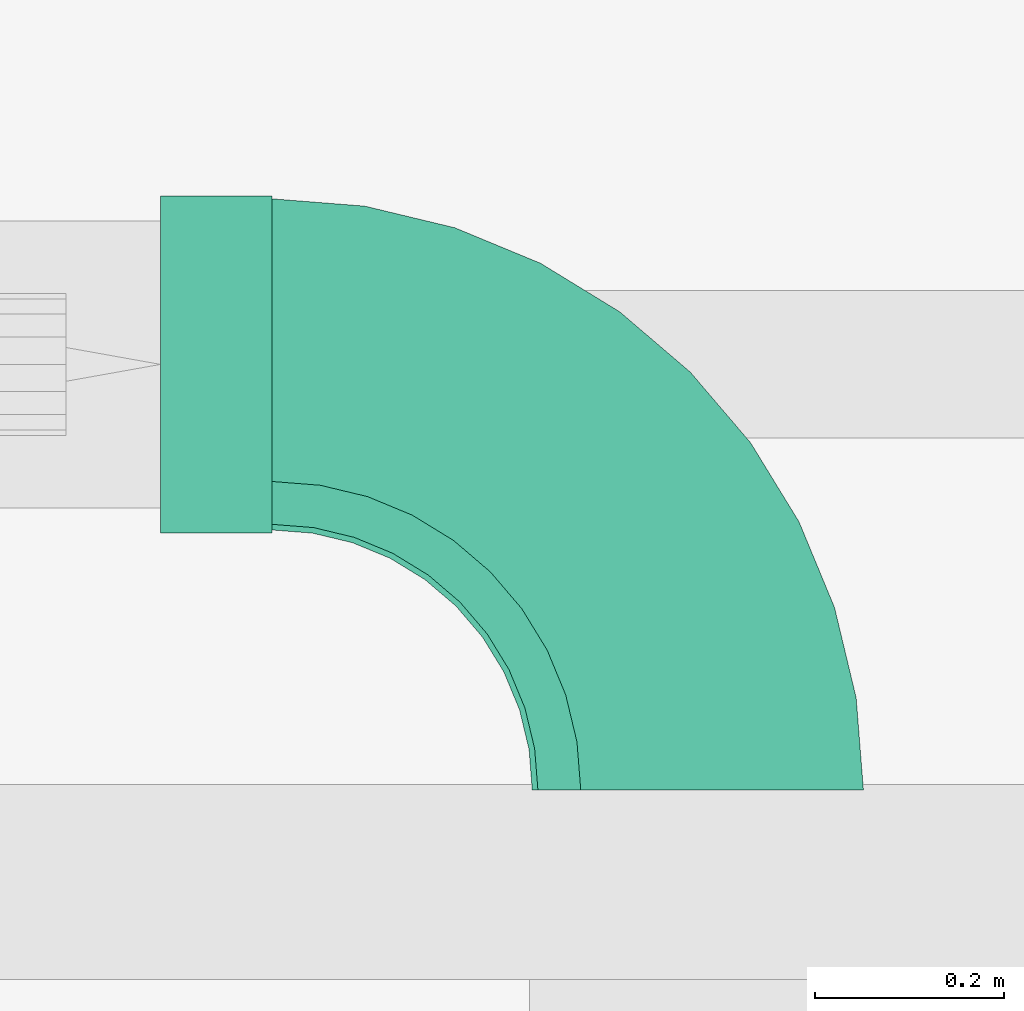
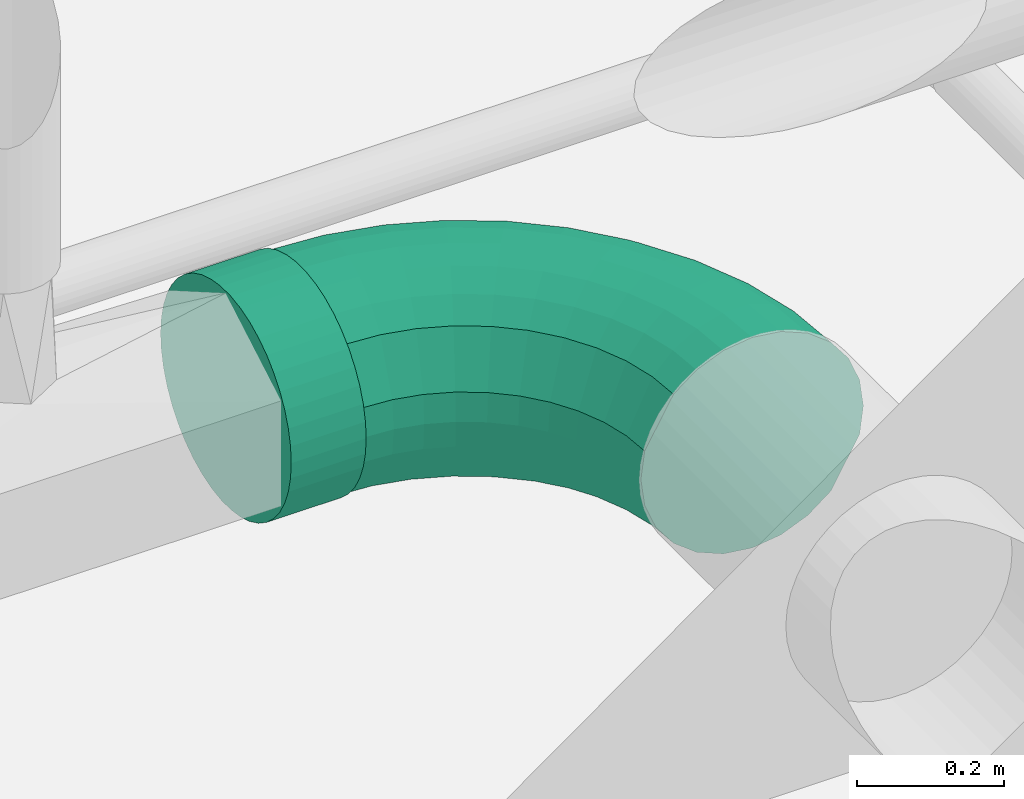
# One storey, part 17 of 28: 1 flow fitting, 1 flow segment.
"""IFC2X3 building model written with IfcOpenShell, lengths in millimetres."""

from ifc_helpers import new_model, entity, si_unit, converted_unit, direction, frame, frame_2d, origin, place, context, subcontext, project, spatial, circle, extrude, faceted_brep, source, transform, mapped, material, type_object, type_shapes, element, save


model = new_model("IFC2X3")

# Units and contexts
model_context = context("Model", 3, precision=0.01, world=origin(), true_north=direction((6.123031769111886e-17, 1.0)))
body_context = subcontext(model_context, "Body", "Model", "MODEL_VIEW")
ifc_project = project(units=[si_unit("LENGTHUNIT", "METRE", prefix="MILLI"), converted_unit("PLANEANGLEUNIT", "DEGREE", entity("IfcPlaneAngleMeasure", 0.017453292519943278), si_unit("PLANEANGLEUNIT", "RADIAN"), dimensions=[0, 0, 0, 0, 0, 0, 0]), si_unit("AREAUNIT", "SQUARE_METRE")], contexts=[model_context])

# Site, building, storey
site_placement = place(None, frame((7776.576483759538, 118.3519876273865, 0.0)))
site = spatial("IfcSite", under=ifc_project, at=site_placement, Name="Default", CompositionType="ELEMENT")
building_placement = place(site_placement, origin())
building = spatial("IfcBuilding", under=site, at=building_placement, Name="Bygning (endres i Project Information)", CompositionType="ELEMENT")
storey_placement = place(building_placement, frame((0.0, 0.0, 14000.0)))
storey = spatial("IfcBuildingStorey", under=building, at=storey_placement, Name="Plan U1 - Arbeid", CompositionType="ELEMENT", Elevation=14000.000000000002)

# Flow segment
ifc_material = material(Name="SS 2343 Rustfritt stål, prosessrør, generisk")
pipe_segment_type = type_object("IfcPipeSegmentType", Name="Pipe Types:AISI 304L Rustfritt", PredefinedType="NOTDEFINED", material=ifc_material)
flow_segment_placement = place(storey_placement, origin())
element("IfcFlowSegment", 1, at=flow_segment_placement, inside=storey, type_object=pipe_segment_type, Name="Pipe Types:AISI 304L Rustfritt", ObjectType="Pipe Types:AISI 304L Rustfritt", context=body_context, shape_type="SweptSolid", body=[
    extrude(circle(Radius=178.0, at=frame_2d((1.9352732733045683e-34, 2.1657342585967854e-12), x_axis=(1.0, 0.0))), frame((15956.145510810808, 30347.75730578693, 278.0000095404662), z_axis=(1.0, 0.0, 0.0), x_axis=(0.0, 1.0, 0.0)), (0.0, 0.0, 1.0), 117.85586405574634),
])

# Flow fitting
pipe_fitting_type = type_object("IfcPipeFittingType", Name="VA_prosess_rustfritt_bend_D+100:VA_prosess_rustfritt_bend_D+100", PredefinedType="NOTDEFINED", material=ifc_material)
shared_shape = source(origin(), body_context, "Body", "Brep", [
    faceted_brep([(-352.2284593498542, -167.30521287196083, 0.0), (-353.16127499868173, -161.4156466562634, 45.29333289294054), (-450.0, -169.03701960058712, 45.29333289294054), (-450.0, -175.0, 0.0), (-355.89615210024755, -144.14831221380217, 87.4999999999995), (-450.0, -151.5544456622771, 87.4999999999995), (-360.2467132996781, -116.67994985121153, 123.74368670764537), (-450.0, -123.74368670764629, 123.74368670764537), (-365.91647504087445, -80.88248306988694, 151.5544456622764), (-450.0, -87.50000000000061, 151.5544456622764), (-372.5190524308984, -39.19545007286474, 169.03701960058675), (-450.0, -45.29333289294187, 169.03701960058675), (-379.6044907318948, 5.540246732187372, 175.0), (-450.0, 0.0, 175.0), (-386.6899290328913, 50.27594353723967, 169.03701960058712), (-450.0, 45.293332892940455, 169.03701960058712), (-393.29250642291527, 91.96297653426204, 151.55444566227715), (-450.0, 87.49999999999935, 151.55444566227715), (-398.9622681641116, 127.76044331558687, 123.7436867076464), (-450.0, 123.74368670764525, 123.7436867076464), (-406.04770646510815, 172.49614012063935, 45.29333289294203), (-450.0, 169.03701960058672, 45.29333289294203), (-406.98052211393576, 178.3857063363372, 0.0), (-450.0, 175.0, 0.0), (-406.0477064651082, 172.4961401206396, -45.29333289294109), (-450.0, 169.03701960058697, -45.29333289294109), (-403.31282936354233, 155.22880567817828, -87.49999999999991), (-450.0, 151.55444566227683, -87.49999999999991), (-398.9622681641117, 127.76044331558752, -123.74368670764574), (-450.0, 123.7436867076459, -123.74368670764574), (-393.2925064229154, 91.96297653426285, -151.5544456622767), (-450.0, 87.50000000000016, -151.5544456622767), (-386.6899290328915, 50.27594353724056, -169.0370196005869), (-450.0, 45.29333289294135, -169.0370196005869), (-379.604490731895, 5.540246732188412, -175.0), (-450.0, 0.0, -175.0), (-372.5190524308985, -39.195450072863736, -169.03701960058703), (-450.0, -45.29333289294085, -169.03701960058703), (-365.9164750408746, -80.88248306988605, -151.55444566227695), (-450.0, -87.4999999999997, -151.55444566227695), (-360.2467132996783, -116.6799498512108, -123.74368670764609), (-450.0, -123.74368670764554, -123.74368670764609), (-353.16127499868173, -161.41564665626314, -45.29333289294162), (-450.0, -169.03701960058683, -45.29333289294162), (-256.86437851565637, -144.41032268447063, 0.0), (-258.70704079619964, -138.7391913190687, 45.29333289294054), (-264.109453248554, -122.11227545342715, 87.4999999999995), (-272.7034503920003, -95.66267192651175, 123.74368670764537), (-283.9033655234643, -61.19287750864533, 151.5544456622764), (-296.9459429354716, -21.051951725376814, 169.03701960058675), (-310.94235253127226, 22.024567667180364, 175.0), (-324.93876212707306, 65.10108705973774, 169.03701960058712), (-337.9813395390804, 105.24201284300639, 151.55444566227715), (-349.18125467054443, 139.71180726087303, 123.7436867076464), (-363.1776642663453, 182.78832665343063, 45.29333289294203), (-365.0203265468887, 188.4594580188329, 0.0), (-363.17766426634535, 182.78832665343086, -45.29333289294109), (-357.77525181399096, 166.1614107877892, -87.49999999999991), (-349.18125467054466, 139.71180726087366, -123.74368670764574), (-337.9813395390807, 105.24201284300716, -151.5544456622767), (-324.93876212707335, 65.10108705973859, -169.0370196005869), (-310.9423525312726, 22.024567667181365, -175.0), (-296.94594293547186, -21.051951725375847, -169.03701960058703), (-283.9033655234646, -61.192877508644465, -151.55444566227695), (-272.70345039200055, -95.66267192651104, -123.74368670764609), (-258.70704079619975, -138.73919131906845, -45.29333289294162), (-166.25593766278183, -106.87907761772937, 0.0), (-168.9630741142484, -101.56602317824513, 45.29333289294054), (-176.8999965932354, -85.9889357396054, 87.4999999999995), (-189.52581694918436, -61.20936806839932, 123.74368670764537), (-205.9801063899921, -28.916006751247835, 151.5544456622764), (-225.14153228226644, 8.690409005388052, 169.03701960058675), (-245.7042751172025, 49.047064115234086, 175.0), (-266.2670179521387, 89.40371922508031, 169.03701960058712), (-285.4284438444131, 127.0101349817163, 151.55444566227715), (-301.88273328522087, 159.30349629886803, 123.7436867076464), (-322.44547612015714, 199.6601514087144, 45.29333289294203), (-325.15261257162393, 204.973205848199, 0.0), (-322.44547612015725, 199.66015140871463, -45.29333289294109), (-314.50855364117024, 184.0830639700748, -87.49999999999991), (-301.88273328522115, 159.30349629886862, -123.74368670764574), (-285.4284438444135, 127.01013498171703, -151.5544456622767), (-266.2670179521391, 89.4037192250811, -169.0370196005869), (-245.70427511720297, 49.047064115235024, -175.0), (-225.1415322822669, 8.690409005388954, -169.03701960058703), (-205.9801063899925, -28.916006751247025, -151.55444566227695), (-189.5258169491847, -61.20936806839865, -123.74368670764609), (-168.96307411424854, -101.56602317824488, -45.29333289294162), (-82.6342173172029, -55.63562148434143, 0.0), (-86.13916925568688, -50.811469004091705, 45.29333289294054), (-96.4151683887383, -36.667769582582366, 87.4999999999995), (-112.76192235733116, -14.168392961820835, 123.74368670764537), (-134.06542689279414, 15.15336552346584, 151.5544456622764), (-158.87388336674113, 49.299276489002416, 169.03701960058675), (-185.49663646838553, 85.94235253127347, 175.0), (-212.11938957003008, 122.58542857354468, 169.03701960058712), (-236.9278460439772, 156.73133953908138, 151.55444566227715), (-258.2313505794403, 186.05309802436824, 123.7436867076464), (-284.85410368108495, 222.69617406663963, 45.29333289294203), (-288.3590556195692, 227.5203265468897, 0.0), (-284.8541036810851, 222.69617406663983, -45.29333289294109), (-274.5781045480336, 208.55247464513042, -87.49999999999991), (-258.23135057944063, 186.05309802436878, -123.74368670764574), (-236.9278460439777, 156.731339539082, -151.5544456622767), (-212.11938957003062, 122.58542857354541, -169.0370196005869), (-185.49663646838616, 85.94235253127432, -175.0), (-158.87388336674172, 49.29927648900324, -169.03701960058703), (-134.06542689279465, 15.15336552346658, -151.55444566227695), (-112.7619223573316, -14.168392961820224, -123.74368670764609), (-86.13916925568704, -50.81146900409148, -45.29333289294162), (-8.058261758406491, 8.058261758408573, 0.0), (-12.274725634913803, 12.274725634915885, 45.29333289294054), (-24.63677221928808, 24.636772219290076, 87.4999999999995), (-44.30194846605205, 44.30194846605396, 123.74368670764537), (-69.93010511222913, 69.93010511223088, 151.5544456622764), (-99.77472563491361, 99.77472563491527, 169.03701960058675), (-131.801948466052, 131.80194846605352, 175.0), (-163.82917129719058, 163.82917129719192, 169.03701960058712), (-193.6737918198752, 193.67379181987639, 151.55444566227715), (-219.3019484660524, 219.3019484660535, 123.7436867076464), (-251.3291712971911, 251.32917129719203, 45.29333289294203), (-255.54563517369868, 255.54563517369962, 0.0), (-251.32917129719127, 251.32917129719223, -45.29333289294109), (-238.9671247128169, 238.96712471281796, -87.49999999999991), (-219.30194846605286, 219.30194846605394, -123.74368670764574), (-193.67379181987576, 193.67379181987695, -151.5544456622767), (-163.8291712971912, 163.82917129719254, -169.0370196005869), (-131.80194846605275, 131.80194846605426, -175.0), (-99.77472563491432, 99.774725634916, -169.03701960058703), (-69.93010511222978, 69.93010511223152, -151.55444566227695), (-44.30194846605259, 44.3019484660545, -123.74368670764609), (-12.274725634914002, 12.274725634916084, -45.29333289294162), (55.63562148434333, 82.63421731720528, 0.0), (50.81146900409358, 86.13916925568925, 45.29333289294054), (36.667769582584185, 96.41516838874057, 87.4999999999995), (14.168392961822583, 112.76192235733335, 123.74368670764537), (-15.153365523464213, 134.06542689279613, 151.5544456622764), (-49.29927648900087, 158.873883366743, 169.03701960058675), (-85.94235253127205, 185.49663646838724, 175.0), (-122.5854285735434, 212.11938957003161, 169.03701960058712), (-156.73133953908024, 236.92784604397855, 151.55444566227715), (-186.05309802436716, 258.23135057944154, 123.7436867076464), (-222.6961740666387, 284.854103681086, 45.29333289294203), (-227.52032654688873, 288.35905561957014, 0.0), (-222.6961740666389, 284.85410368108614, -45.29333289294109), (-208.5524746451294, 274.5781045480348, -87.49999999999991), (-186.05309802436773, 258.2313505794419, -123.74368670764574), (-156.73133953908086, 236.92784604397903, -151.5544456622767), (-122.58542857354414, 212.11938957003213, -169.0370196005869), (-85.9423525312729, 185.49663646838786, -175.0), (-49.29927648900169, 158.8738833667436, -169.03701960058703), (-15.153365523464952, 134.06542689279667, -151.55444566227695), (14.168392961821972, 112.76192235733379, -123.74368670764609), (50.811469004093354, 86.13916925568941, -45.29333289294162), (106.87907761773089, 166.25593766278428, 0.0), (101.56602317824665, 168.96307411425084, 45.29333289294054), (85.98893573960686, 176.89999659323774, 87.4999999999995), (61.209368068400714, 189.5258169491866, 123.74368670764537), (28.916006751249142, 205.98010638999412, 151.5544456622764), (-8.690409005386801, 225.14153228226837, 169.03701960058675), (-49.047064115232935, 245.70427511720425, 175.0), (-89.40371922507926, 266.2670179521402, 169.03701960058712), (-127.01013498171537, 285.42844384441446, 151.55444566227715), (-159.30349629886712, 301.8827332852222, 123.7436867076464), (-199.6601514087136, 322.44547612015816, 45.29333289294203), (-204.97320584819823, 325.1526125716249, 0.0), (-199.66015140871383, 322.4454761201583, -45.29333289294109), (-184.08306397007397, 314.5085536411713, -87.49999999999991), (-159.3034962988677, 301.88273328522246, -123.74368670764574), (-127.01013498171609, 285.42844384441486, -151.5544456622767), (-89.40371922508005, 266.2670179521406, -169.0370196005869), (-49.04706411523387, 245.7042751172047, -175.0), (-8.690409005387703, 225.14153228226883, -169.03701960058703), (28.916006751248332, 205.98010638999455, -151.55444566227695), (61.209368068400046, 189.52581694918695, -123.74368670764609), (101.5660231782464, 168.96307411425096, -45.29333289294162), (144.41032268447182, 256.8643785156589, 0.0), (138.73919131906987, 258.7070407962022, 45.29333289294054), (122.11227545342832, 264.1094532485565, 87.4999999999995), (95.66267192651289, 272.7034503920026, 123.74368670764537), (61.19287750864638, 283.9033655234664, 151.5544456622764), (21.05195172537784, 296.9459429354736, 169.03701960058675), (-22.024567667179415, 310.9423525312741, 175.0), (-65.10108705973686, 324.9387621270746, 169.03701960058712), (-105.24201284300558, 337.98133953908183, 151.55444566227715), (-139.7118072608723, 349.1812546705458, 123.7436867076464), (-182.7883266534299, 363.17766426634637, 45.29333289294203), (-188.45945801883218, 365.0203265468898, 0.0), (-182.78832665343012, 363.1776642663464, -45.29333289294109), (-166.16141078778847, 357.7752518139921, -87.49999999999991), (-139.71180726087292, 349.18125467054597, -123.74368670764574), (-105.24201284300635, 337.9813395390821, -151.5544456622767), (-65.10108705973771, 324.9387621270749, -169.0370196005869), (-22.024567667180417, 310.9423525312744, -175.0), (21.051951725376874, 296.94594293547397, -169.03701960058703), (61.192877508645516, 283.9033655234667, -151.55444566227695), (95.66267192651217, 272.7034503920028, -123.74368670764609), (138.73919131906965, 258.7070407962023, -45.29333289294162), (167.30521287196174, 352.22845934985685, 0.0), (161.4156466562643, 353.16127499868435, 45.29333289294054), (144.14831221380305, 355.89615210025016, 87.4999999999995), (116.67994985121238, 360.2467132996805, 123.74368670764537), (80.88248306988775, 365.9164750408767, 151.5544456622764), (39.19545007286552, 372.5190524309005, 169.03701960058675), (-5.5402467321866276, 379.6044907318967, 175.0), (-50.27594353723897, 386.68992903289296, 169.03701960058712), (-91.96297653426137, 393.29250642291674, 151.55444566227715), (-127.76044331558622, 398.962268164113, 123.7436867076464), (-172.49614012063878, 406.0477064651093, 45.29333289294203), (-178.38570633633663, 406.98052211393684, 0.0), (-172.49614012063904, 406.0477064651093, -45.29333289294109), (-155.22880567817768, 403.3128293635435, -87.49999999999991), (-127.76044331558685, 398.9622681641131, -123.74368670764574), (-91.96297653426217, 393.29250642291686, -151.5544456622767), (-50.275943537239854, 386.6899290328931, -169.0370196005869), (-5.540246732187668, 379.6044907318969, -175.0), (39.19545007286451, 372.5190524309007, -169.03701960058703), (80.88248306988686, 365.9164750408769, -151.55444566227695), (116.67994985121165, 360.2467132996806, -123.74368670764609), (161.41564665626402, 353.1612749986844, -45.29333289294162), (175.0, 450.0, 0.0), (169.0370196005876, 450.0, 45.29333289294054), (151.55444566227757, 450.0, 87.4999999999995), (123.74368670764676, 450.0, 123.74368670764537), (87.50000000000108, 450.0, 151.5544456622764), (45.293332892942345, 450.0, 169.03701960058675), (0.0, 450.0, 175.0), (-45.29333289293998, 450.0, 169.03701960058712), (-87.49999999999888, 450.0, 151.55444566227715), (-123.74368670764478, 450.0, 123.7436867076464), (-169.03701960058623, 450.0, 45.29333289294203), (-175.0, 450.0, 0.0), (-169.0370196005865, 450.0, -45.29333289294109), (-151.55444566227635, 450.0, -87.49999999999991), (-123.74368670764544, 450.0, -123.74368670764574), (-87.49999999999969, 450.0, -151.5544456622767), (-45.293332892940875, 450.0, -169.0370196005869), (0.0, 450.0, -175.0), (45.29333289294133, 450.0, -169.03701960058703), (87.50000000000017, 450.0, -151.55444566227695), (123.743686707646, 450.0, -123.74368670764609), (169.0370196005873, 450.0, -45.29333289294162)], [[[0, 1, 2, 3]], [[1, 4, 5, 2]], [[4, 6, 7, 5]], [[6, 8, 9, 7]], [[8, 10, 11, 9]], [[10, 12, 13, 11]], [[12, 14, 15, 13]], [[14, 16, 17, 15]], [[16, 18, 19, 17]], [[18, 20, 21, 19]], [[20, 22, 23, 21]], [[22, 24, 25, 23]], [[24, 26, 27, 25]], [[26, 28, 29, 27]], [[28, 30, 31, 29]], [[30, 32, 33, 31]], [[32, 34, 35, 33]], [[34, 36, 37, 35]], [[36, 38, 39, 37]], [[38, 40, 41, 39]], [[40, 42, 43, 41]], [[42, 0, 3, 43]], [[44, 45, 1, 0]], [[45, 46, 4, 1]], [[46, 47, 6, 4]], [[47, 48, 8, 6]], [[48, 49, 10, 8]], [[49, 50, 12, 10]], [[50, 51, 14, 12]], [[51, 52, 16, 14]], [[52, 53, 18, 16]], [[53, 54, 20, 18]], [[54, 55, 22, 20]], [[55, 56, 24, 22]], [[56, 57, 26, 24]], [[57, 58, 28, 26]], [[58, 59, 30, 28]], [[59, 60, 32, 30]], [[60, 61, 34, 32]], [[61, 62, 36, 34]], [[62, 63, 38, 36]], [[63, 64, 40, 38]], [[64, 65, 42, 40]], [[65, 44, 0, 42]], [[66, 67, 45, 44]], [[67, 68, 46, 45]], [[68, 69, 47, 46]], [[69, 70, 48, 47]], [[70, 71, 49, 48]], [[71, 72, 50, 49]], [[72, 73, 51, 50]], [[73, 74, 52, 51]], [[74, 75, 53, 52]], [[75, 76, 54, 53]], [[76, 77, 55, 54]], [[77, 78, 56, 55]], [[78, 79, 57, 56]], [[79, 80, 58, 57]], [[80, 81, 59, 58]], [[81, 82, 60, 59]], [[82, 83, 61, 60]], [[83, 84, 62, 61]], [[84, 85, 63, 62]], [[85, 86, 64, 63]], [[86, 87, 65, 64]], [[87, 66, 44, 65]], [[88, 89, 67, 66]], [[89, 90, 68, 67]], [[90, 91, 69, 68]], [[91, 92, 70, 69]], [[92, 93, 71, 70]], [[93, 94, 72, 71]], [[94, 95, 73, 72]], [[95, 96, 74, 73]], [[96, 97, 75, 74]], [[97, 98, 76, 75]], [[98, 99, 77, 76]], [[99, 100, 78, 77]], [[100, 101, 79, 78]], [[101, 102, 80, 79]], [[102, 103, 81, 80]], [[103, 104, 82, 81]], [[104, 105, 83, 82]], [[105, 106, 84, 83]], [[106, 107, 85, 84]], [[107, 108, 86, 85]], [[108, 109, 87, 86]], [[109, 88, 66, 87]], [[110, 111, 89, 88]], [[111, 112, 90, 89]], [[112, 113, 91, 90]], [[113, 114, 92, 91]], [[114, 115, 93, 92]], [[115, 116, 94, 93]], [[116, 117, 95, 94]], [[117, 118, 96, 95]], [[118, 119, 97, 96]], [[119, 120, 98, 97]], [[120, 121, 99, 98]], [[121, 122, 100, 99]], [[122, 123, 101, 100]], [[123, 124, 102, 101]], [[124, 125, 103, 102]], [[125, 126, 104, 103]], [[126, 127, 105, 104]], [[127, 128, 106, 105]], [[128, 129, 107, 106]], [[129, 130, 108, 107]], [[130, 131, 109, 108]], [[131, 110, 88, 109]], [[132, 133, 111, 110]], [[133, 134, 112, 111]], [[134, 135, 113, 112]], [[135, 136, 114, 113]], [[136, 137, 115, 114]], [[137, 138, 116, 115]], [[138, 139, 117, 116]], [[139, 140, 118, 117]], [[140, 141, 119, 118]], [[141, 142, 120, 119]], [[142, 143, 121, 120]], [[143, 144, 122, 121]], [[144, 145, 123, 122]], [[145, 146, 124, 123]], [[146, 147, 125, 124]], [[147, 148, 126, 125]], [[148, 149, 127, 126]], [[149, 150, 128, 127]], [[150, 151, 129, 128]], [[151, 152, 130, 129]], [[152, 153, 131, 130]], [[153, 132, 110, 131]], [[154, 155, 133, 132]], [[155, 156, 134, 133]], [[156, 157, 135, 134]], [[157, 158, 136, 135]], [[158, 159, 137, 136]], [[159, 160, 138, 137]], [[160, 161, 139, 138]], [[161, 162, 140, 139]], [[162, 163, 141, 140]], [[163, 164, 142, 141]], [[164, 165, 143, 142]], [[165, 166, 144, 143]], [[166, 167, 145, 144]], [[167, 168, 146, 145]], [[168, 169, 147, 146]], [[169, 170, 148, 147]], [[170, 171, 149, 148]], [[171, 172, 150, 149]], [[172, 173, 151, 150]], [[173, 174, 152, 151]], [[174, 175, 153, 152]], [[175, 154, 132, 153]], [[176, 177, 155, 154]], [[177, 178, 156, 155]], [[178, 179, 157, 156]], [[179, 180, 158, 157]], [[180, 181, 159, 158]], [[181, 182, 160, 159]], [[182, 183, 161, 160]], [[183, 184, 162, 161]], [[184, 185, 163, 162]], [[185, 186, 164, 163]], [[186, 187, 165, 164]], [[187, 188, 166, 165]], [[188, 189, 167, 166]], [[189, 190, 168, 167]], [[190, 191, 169, 168]], [[191, 192, 170, 169]], [[192, 193, 171, 170]], [[193, 194, 172, 171]], [[194, 195, 173, 172]], [[195, 196, 174, 173]], [[196, 197, 175, 174]], [[197, 176, 154, 175]], [[198, 199, 177, 176]], [[199, 200, 178, 177]], [[200, 201, 179, 178]], [[201, 202, 180, 179]], [[202, 203, 181, 180]], [[203, 204, 182, 181]], [[204, 205, 183, 182]], [[205, 206, 184, 183]], [[206, 207, 185, 184]], [[207, 208, 186, 185]], [[208, 209, 187, 186]], [[209, 210, 188, 187]], [[210, 211, 189, 188]], [[211, 212, 190, 189]], [[212, 213, 191, 190]], [[213, 214, 192, 191]], [[214, 215, 193, 192]], [[215, 216, 194, 193]], [[216, 217, 195, 194]], [[217, 218, 196, 195]], [[218, 219, 197, 196]], [[219, 198, 176, 197]], [[220, 221, 199, 198]], [[221, 222, 200, 199]], [[222, 223, 201, 200]], [[223, 224, 202, 201]], [[224, 225, 203, 202]], [[225, 226, 204, 203]], [[226, 227, 205, 204]], [[227, 228, 206, 205]], [[228, 229, 207, 206]], [[229, 230, 208, 207]], [[230, 231, 209, 208]], [[231, 232, 210, 209]], [[232, 233, 211, 210]], [[233, 234, 212, 211]], [[234, 235, 213, 212]], [[235, 236, 214, 213]], [[236, 237, 215, 214]], [[237, 238, 216, 215]], [[238, 239, 217, 216]], [[239, 240, 218, 217]], [[240, 241, 219, 218]], [[241, 220, 198, 219]], [[3, 2, 5, 7, 9, 11, 13, 15, 17, 19, 21, 23, 25, 27, 29, 31, 33, 35, 37, 39, 41, 43]], [[241, 240, 239, 238, 237, 236, 235, 234, 233, 232, 231, 230, 229, 228, 227, 226, 225, 224, 223, 222, 221, 220]]]),
])
type_shapes(pipe_fitting_type, [shared_shape])
flow_fitting_placement = place(storey_placement, frame((16524.001374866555, 30347.75730578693, 278.0), z_axis=(2.1201029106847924e-08, 0.0, 1.0), x_axis=(0.0, 1.0, 0.0)))
element("IfcFlowFitting", 2, at=flow_fitting_placement, inside=storey, type_object=pipe_fitting_type, material=ifc_material, Name="VA_prosess_rustfritt_bend_D+100:VA_prosess_rustfritt_bend_D+100", ObjectType="VA_prosess_rustfritt_bend_D+100:VA_prosess_rustfritt_bend_D+100", context=body_context, shape_type="MappedRepresentation", body=[
    mapped(shared_shape, transform((0.0, 0.0, 0.0), scale=1.0)),
])

save(model, "model.ifc")
